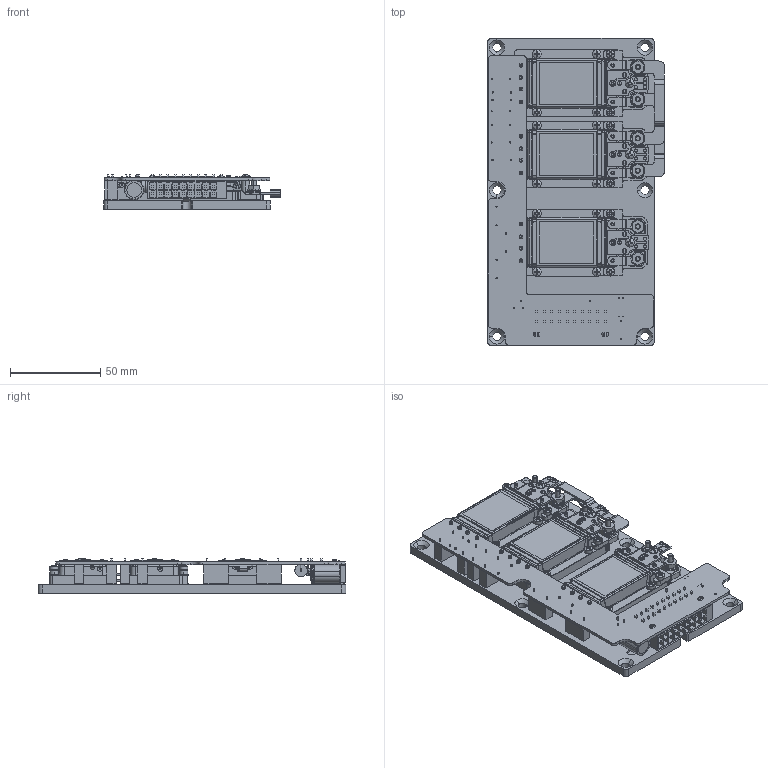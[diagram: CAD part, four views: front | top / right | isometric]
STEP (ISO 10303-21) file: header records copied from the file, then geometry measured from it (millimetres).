
FILE_DESCRIPTION (( 'STEP AP214' ), '1' );
FILE_NAME ('VA-C-LUG-2OUT.STEP', '2011-02-16T13:51:13', ( 'Vicor Employee' ), ( 'Vicor Corporation' ), 'SwSTEP 2.0', 'SolidWorks 2011', '' );
FILE_SCHEMA (( 'AUTOMOTIVE_DESIGN' ));
Length unit declared in the file: inch
Products named in the file (1): VA-C-LUG-2OUT
Bounding box: 97.88 x 170.51 x 19.28 mm (x, y, z)
Volume: 126539.4 mm3; surface area: 115939.7 mm2
Topology: 1 solids, 1 shells, 6800 faces, 18559 edges, 11875 vertices
Faces by surface type: plane 3781, cylinder 1994, bspline 525, cone 278, torus 132, sphere 90
Entity records: 332736 total; most frequent: CARTESIAN_POINT 75450, ORIENTED_EDGE 37022, DIRECTION 33121, EDGE_CURVE 18511, VERTEX_POINT 11875, VECTOR 11497, LINE 11497, AXIS2_PLACEMENT_3D 10812
